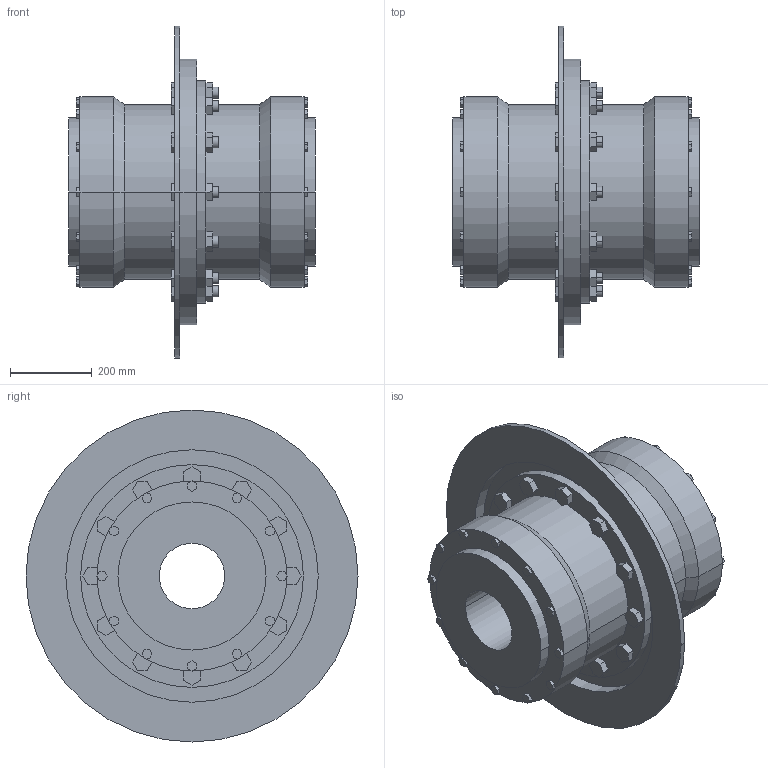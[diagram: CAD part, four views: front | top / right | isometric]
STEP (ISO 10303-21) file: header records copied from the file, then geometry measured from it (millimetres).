
FILE_DESCRIPTION((''),'2;1');
FILE_NAME('A19102000-0_ASM','2018-11-08T',('AB_Roschiwal'),('RENK AG'),'PRO/ENGINEER BY PARAMETRIC TECHNOLOGY CORPORATION, 2015440','PRO/ENGINEER BY PARAMETRIC TECHNOLOGY CORPORATION, 2015440','');
FILE_SCHEMA(('CONFIG_CONTROL_DESIGN'));
Length unit declared in the file: millimetre
Products named in the file (4): SBKD225_GEHAEUSE; SBKD225_NABE; SBKD225_BREMSSCHEIBE; A19102000-0_ASM
Assembly tree (4 placements, depth 2):
  A19102000-0_ASM
    SBKD225_GEHAEUSE
    SBKD225_NABE  x2
    SBKD225_BREMSSCHEIBE
Bounding box: 604 x 812 x 812 mm (x, y, z)
Volume: 81174699 mm3; surface area: 4348227.6 mm2
Topology: 4 solids, 4 shells, 470 faces, 1156 edges, 768 vertices
Faces by surface type: plane 370, cylinder 96, cone 4
Entity records: 13604 total; most frequent: CARTESIAN_POINT 2350, ORIENTED_EDGE 2264, DIRECTION 2240, EDGE_CURVE 1132, VECTOR 956, LINE 956, VERTEX_POINT 752, AXIS2_PLACEMENT_3D 642
